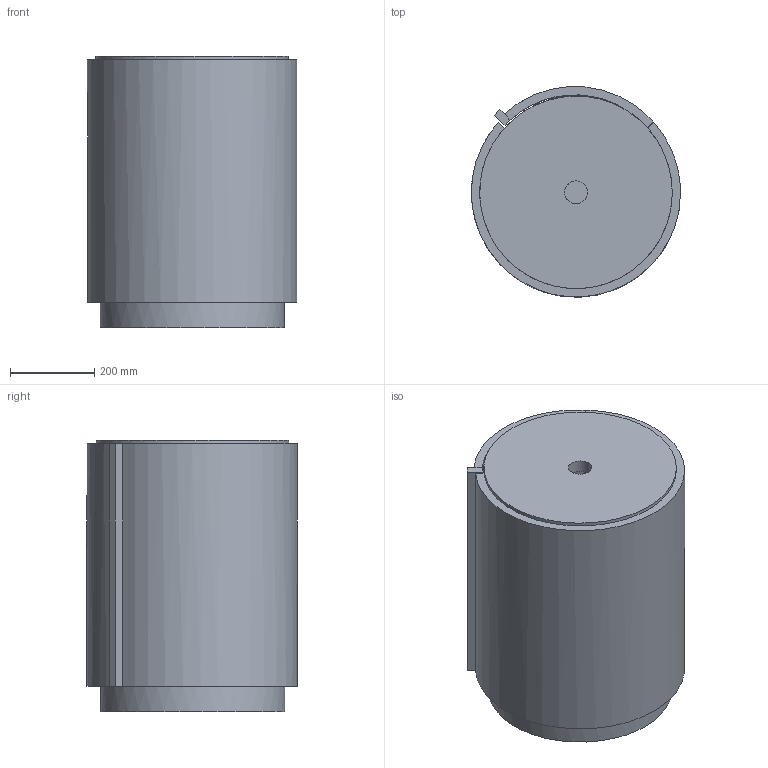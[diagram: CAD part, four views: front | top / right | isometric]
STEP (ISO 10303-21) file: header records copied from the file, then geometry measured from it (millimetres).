
FILE_DESCRIPTION(/* description */ (''),/* implementation_level */ '2;1');
FILE_NAME(/* name */ 'TIBERINO_NEW',/* time_stamp */ '2025-09-01T09:48:12+02:00',/* author */ (''),/* organization */ (''),/* preprocessor_version */ 'ST-DEVELOPER v16.5',/* originating_system */ 'Rhino 7.27',/* authorisation */ '');
FILE_SCHEMA (('CONFIG_CONTROL_DESIGN'));
Length unit declared in the file: millimetre
Products named in the file (1): Document
Bounding box: 497.03 x 499.84 x 644.16 mm (x, y, z)
Volume: 23010574.4 mm3; surface area: 2819465.2 mm2
Topology: 4 solids, 5 shells, 30 faces, 60 edges, 36 vertices
Faces by surface type: plane 19, cylinder 11
Full cylindrical faces by diameter (mm): 54.673 x1, 377.744 x1, 437.388 x1, 457.269 x2
Entity records: 855 total; most frequent: CARTESIAN_POINT 321, ORIENTED_EDGE 114, EDGE_CURVE 60, VERTEX_POINT 36, DIRECTION 36, EDGE_LOOP 34, AXIS2_PLACEMENT_3D 33, B_SPLINE_CURVE_WITH_KNOTS 31
